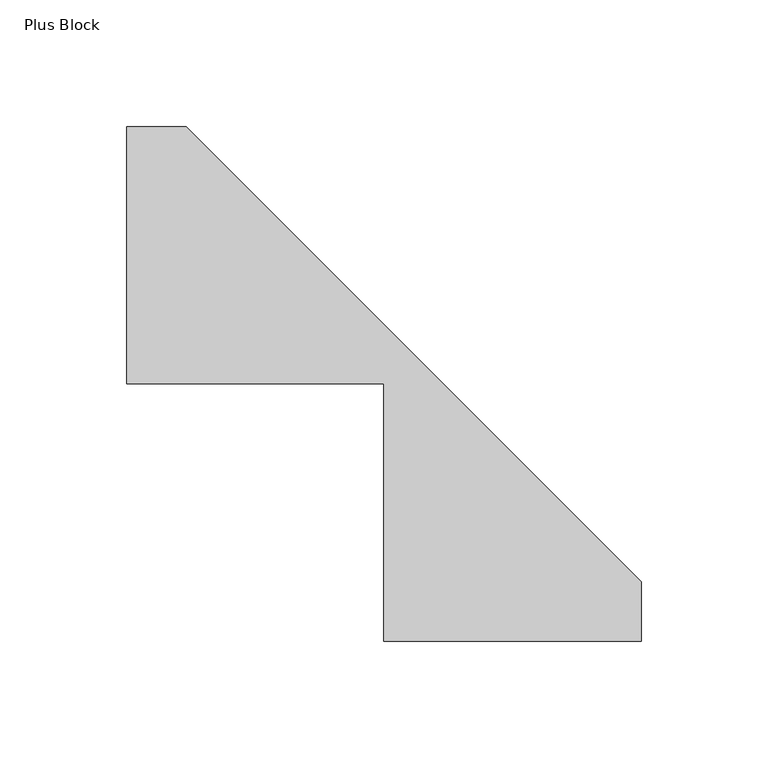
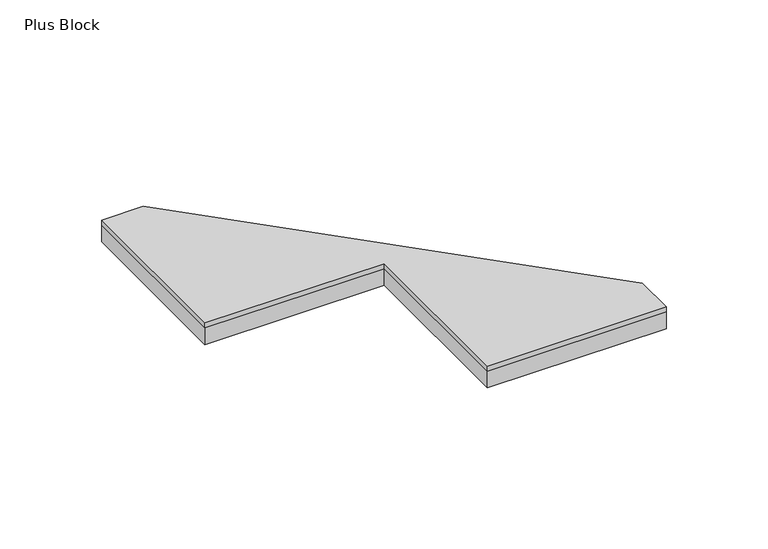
"""IFC4 building model written with IfcOpenShell, lengths in millimetres: proxy geometry, FilzFelt_Plus_Block : Plus Block."""

from ifc_helpers import new_model, si_unit, frame, origin, origin_with_axes, place, context, project, spatial, polyline, outline, extrude, source, transform, mapped, element, save


def plus_block_ed64af3b(model_context):
    return source(origin(), model_context, "Body", "SweptSolid", [
        extrude(outline(polyline([(50.8333333, -152.5), (-50.8333333, -152.5), (-50.8333333, -50.8333333), (-152.5, -50.8333333), (-152.5, 50.8333333), (-128.9207795, 50.8333333), (50.8333333, -128.9207795), (50.8333333, -152.5)])), frame((0.0, 0.0, 10.0210937), z_axis=(0.0, 0.0, 1.0), x_axis=(1.0, 0.0, 0.0)), (0.0, 0.0, 1.0), 2.9765625),
        extrude(outline(polyline([(-152.5, -50.8333333), (-152.5, 50.8333333), (-128.9207795, 50.8333333), (50.8333333, -128.9207795), (50.8333333, -152.5), (-50.8333333, -152.5), (-50.8333333, -50.8333333), (-152.5, -50.8333333)])), origin_with_axes(), (0.0, 0.0, 1.0), 10.0210938),
    ])


if __name__ == "__main__":
    model = new_model("IFC4")
    model_context = context("Model", 3, world=origin())
    ifc_project = project(units=[si_unit("LENGTHUNIT", "METRE", prefix="MILLI")], contexts=[model_context])
    site = spatial("IfcSite", under=ifc_project)
    building = spatial("IfcBuilding", under=site)
    placement = place(None, origin())
    plus_block_shape = plus_block_ed64af3b(model_context)
    element("IfcBuildingElementProxy", 1, Name="FilzFelt_Plus_Block : Plus Block", ObjectType="FilzFelt_Plus_Block : Plus Block", at=placement, inside=building, context=model_context, shape_type="MappedRepresentation", body=[
        mapped(plus_block_shape, transform((0.0, 0.0, 0.0), x_axis=(1.0, 0.0, 0.0), y_axis=(0.0, 1.0, 0.0), z_axis=(0.0, 0.0, 1.0))),
    ])
    save(model, "model.ifc")
